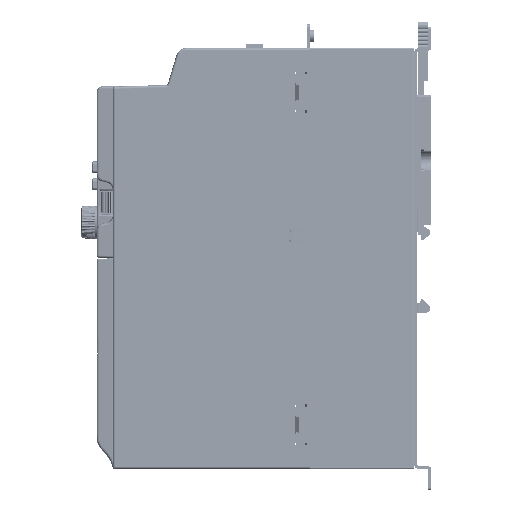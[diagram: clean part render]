
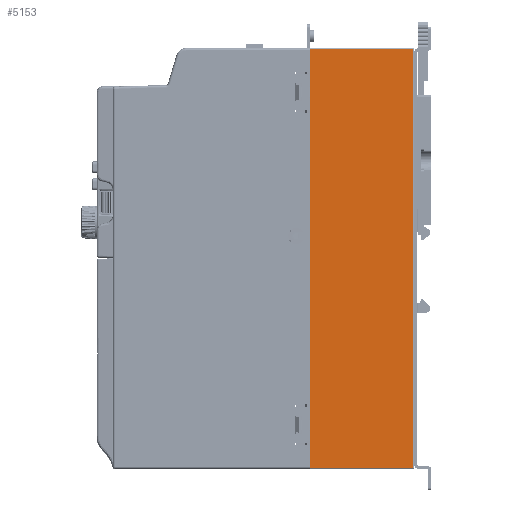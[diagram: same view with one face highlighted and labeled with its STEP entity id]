
A CAD part, left-side view. The second image highlights one B-rep face of the part: STEP entity #5153.
In plain terms, the highlighted planar face has unit normal (-1, 0, 0).
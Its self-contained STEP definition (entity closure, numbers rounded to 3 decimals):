
#1841=DIRECTION('',(0.,1.,0.));
#1842=VECTOR('',#1841,51.5);
#1843=CARTESIAN_POINT('',(-60.,-51.5,104.5));
#1844=LINE('',#1843,#1842);
#2043=DIRECTION('',(0.,-1.,0.));
#2044=VECTOR('',#2043,51.5);
#2045=CARTESIAN_POINT('',(-60.,0.,-104.5));
#2046=LINE('',#2045,#2044);
#2081=DIRECTION('',(0.,0.,1.));
#2082=VECTOR('',#2081,209.);
#2083=CARTESIAN_POINT('',(-60.,-51.5,-104.5));
#2084=LINE('',#2083,#2082);
#2088=DIRECTION('',(0.,0.,1.));
#2089=VECTOR('',#2088,209.);
#2090=CARTESIAN_POINT('',(-60.,0.,-104.5));
#2091=LINE('',#2090,#2089);
#3600=CARTESIAN_POINT('',(-60.,0.,104.5));
#3601=VERTEX_POINT('',#3600);
#3602=CARTESIAN_POINT('',(-60.,0.,-104.5));
#3603=VERTEX_POINT('',#3602);
#3707=CARTESIAN_POINT('',(-60.,-51.5,104.5));
#3708=VERTEX_POINT('',#3707);
#3747=CARTESIAN_POINT('',(-60.,-51.5,-104.5));
#3748=VERTEX_POINT('',#3747);
#5142=CARTESIAN_POINT('',(-60.,0.,-105.));
#5143=DIRECTION('',(-1.,0.,0.));
#5144=DIRECTION('',(0.,-1.,0.));
#5145=AXIS2_PLACEMENT_3D('',#5142,#5143,#5144);
#5146=PLANE('',#5145);
#5147=ORIENTED_EDGE('',*,*,#5136,.F.);
#5148=ORIENTED_EDGE('',*,*,#5112,.F.);
#5149=ORIENTED_EDGE('',*,*,#4467,.T.);
#5150=ORIENTED_EDGE('',*,*,#4977,.F.);
#5151=EDGE_LOOP('',(#5147,#5148,#5149,#5150));
#5152=FACE_OUTER_BOUND('',#5151,.F.);
#5153=ADVANCED_FACE('',(#5152),#5146,.T.);
#4467=EDGE_CURVE('',#3603,#3601,#2091,.T.);
#4977=EDGE_CURVE('',#3708,#3601,#1844,.T.);
#5112=EDGE_CURVE('',#3603,#3748,#2046,.T.);
#5136=EDGE_CURVE('',#3748,#3708,#2084,.T.);
